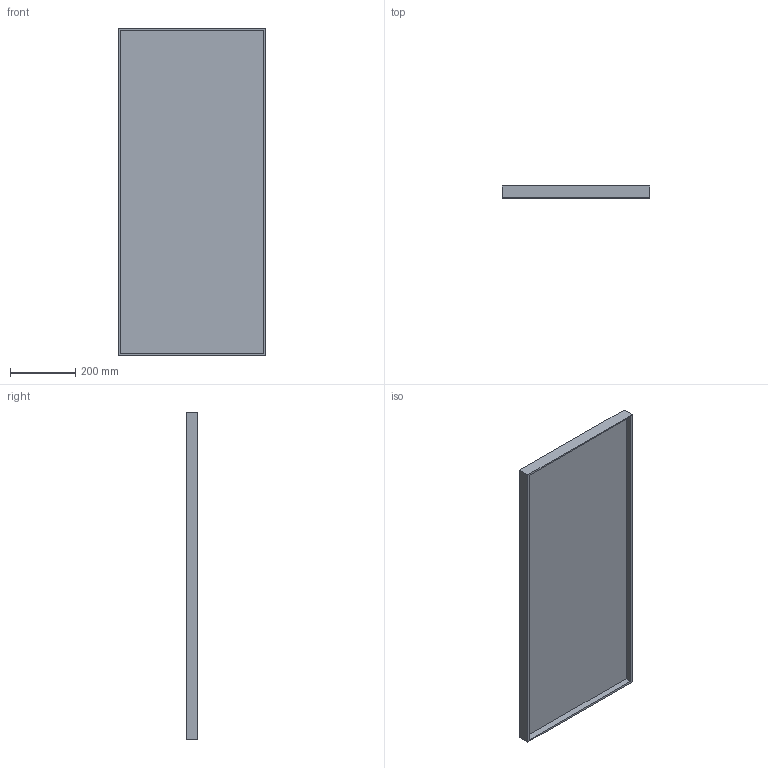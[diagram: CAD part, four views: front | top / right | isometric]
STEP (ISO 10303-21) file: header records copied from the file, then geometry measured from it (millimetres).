
FILE_DESCRIPTION(/* description */ (''),/* implementation_level */ '2;1');
FILE_NAME(/* name */ 'SWQ3EN~H',/* time_stamp */ '2019-03-21T12:15:37+01:00',/* author */ (''),/* organization */ (''),/* preprocessor_version */ 'ST-DEVELOPER v16.5',/* originating_system */ '',/* authorisation */ '');
FILE_SCHEMA (('AUTOMOTIVE_DESIGN'));
Length unit declared in the file: millimetre
Products named in the file (1): Document
Bounding box: 450 x 35 x 1000 mm (x, y, z)
Volume: 7038000 mm3; surface area: 1144500 mm2
Topology: 2 solids, 2 shells, 16 faces, 38 edges, 26 vertices
Faces by surface type: plane 16
Entity records: 431 total; most frequent: CARTESIAN_POINT 125, ORIENTED_EDGE 72, B_SPLINE_CURVE_WITH_KNOTS 38, EDGE_CURVE 36, VERTEX_POINT 24, DIRECTION 22, AXIS2_PLACEMENT_3D 19, EDGE_LOOP 18
